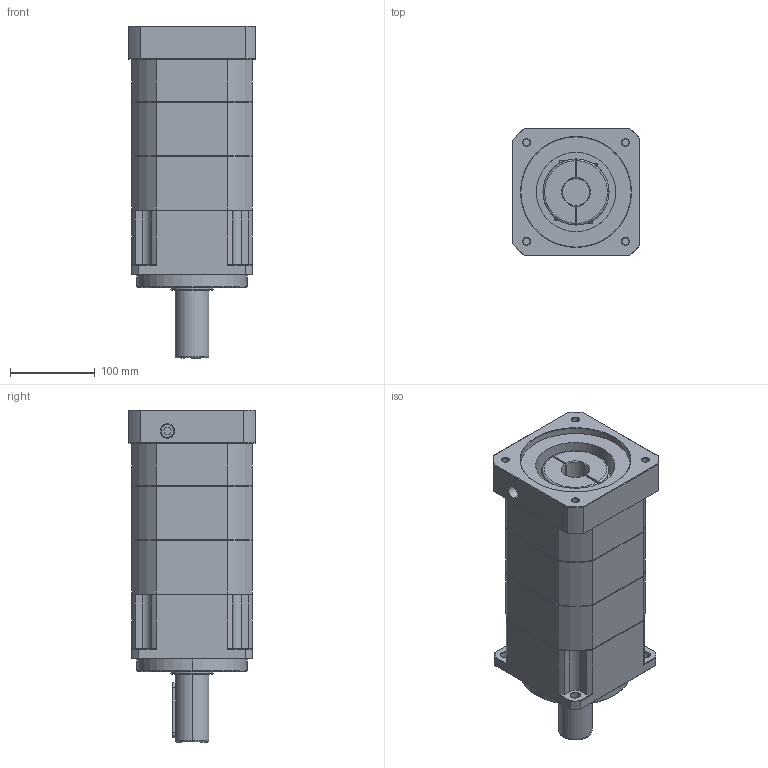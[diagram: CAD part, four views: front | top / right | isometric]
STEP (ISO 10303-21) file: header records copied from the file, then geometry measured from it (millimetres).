
FILE_DESCRIPTION (( 'STEP AP214' ), '1' );
FILE_NAME ('ZPB142-L3-P1-S2-32-130-165-M10.step', '2024-07-05T00:21:17', ( 'Windows 蚚誧' ), ( 'Organization' ), 'SwSTEP 2.0', 'SolidWorks 2016', '' );
FILE_SCHEMA (( 'AUTOMOTIVE_DESIGN' ));
Length unit declared in the file: millimetre
Products named in the file (1): ZPB142-L3-P1-S2-32-130-165-M10
Bounding box: 150 x 150 x 391.5 mm (x, y, z)
Surface area: 272669.5 mm2 (no closed solid volume)
Topology: 0 solids, 37 shells, 1818 faces, 4825 edges, 3082 vertices
Faces by surface type: plane 936, bspline 383, cone 280, cylinder 219
Full cylindrical faces by diameter (mm): 14 x1
Entity records: 101670 total; most frequent: CARTESIAN_POINT 50800, ORIENTED_EDGE 9625, DIRECTION 7423, EDGE_CURVE 4824, LINE 3179, VECTOR 3179, VERTEX_POINT 3082, AXIS2_PLACEMENT_3D 2122
